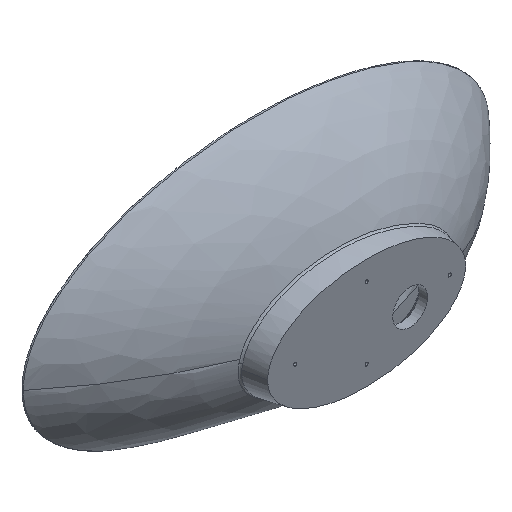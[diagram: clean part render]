
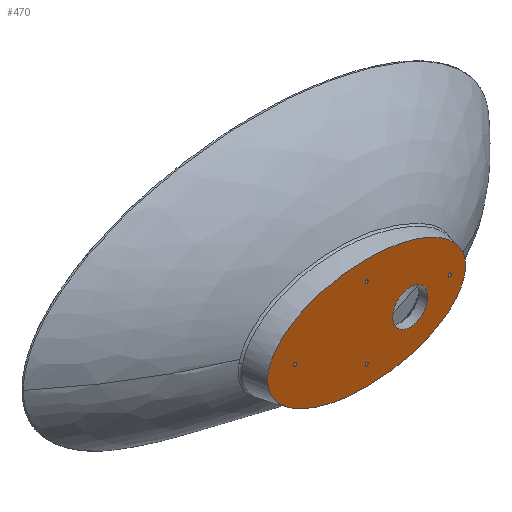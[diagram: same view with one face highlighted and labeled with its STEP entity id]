
A CAD part, isometric view. The second image highlights one B-rep face of the part: STEP entity #470.
In plain terms, the highlighted planar face has unit normal (0, -1, 0).
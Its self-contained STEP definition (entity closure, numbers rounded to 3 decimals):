
#16=FACE_BOUND('',#116,.T.);
#17=FACE_BOUND('',#117,.T.);
#18=FACE_BOUND('',#118,.T.);
#19=FACE_BOUND('',#119,.T.);
#20=FACE_BOUND('',#120,.T.);
#22=PLANE('',#530);
#35=CIRCLE('',#496,2.);
#38=CIRCLE('',#499,2.);
#39=CIRCLE('',#501,2.);
#42=CIRCLE('',#504,2.);
#43=CIRCLE('',#506,2.);
#46=CIRCLE('',#509,2.);
#47=CIRCLE('',#511,2.);
#50=CIRCLE('',#514,2.);
#51=CIRCLE('',#516,22.);
#55=CIRCLE('',#520,22.);
#88=FACE_OUTER_BOUND('',#115,.T.);
#115=EDGE_LOOP('',(#403,#404));
#116=EDGE_LOOP('',(#405,#406));
#117=EDGE_LOOP('',(#407,#408));
#118=EDGE_LOOP('',(#409,#410));
#119=EDGE_LOOP('',(#411,#412));
#120=EDGE_LOOP('',(#413,#414));
#146=B_SPLINE_CURVE_WITH_KNOTS('',3,(#741,#742,#743,#744,#745,#746,#747,
#748,#749,#750,#751,#752,#753,#754,#755,#756,#757,#758,#759,#760,#761,#762,
#763,#764,#765,#766),.UNSPECIFIED.,.F.,.F.,(4,2,2,2,2,2,2,2,2,2,2,2,4),
(0.,0.196,0.393,0.589,0.785,
1.178,1.571,1.963,2.356,2.553,
2.749,2.945,3.142),.UNSPECIFIED.);
#178=B_SPLINE_CURVE_WITH_KNOTS('',3,(#14855,#14856,#14857,#14858,#14859,
#14860,#14861,#14862,#14863,#14864,#14865,#14866,#14867,#14868,#14869,#14870,
#14871,#14872,#14873,#14874,#14875,#14876,#14877,#14878,#14879,#14880),
 .UNSPECIFIED.,.F.,.F.,(4,2,2,2,2,2,2,2,2,2,2,2,4),(3.142,3.338,
3.534,3.731,3.927,4.32,4.712,
5.105,5.498,5.694,5.89,6.087,
6.283),.UNSPECIFIED.);
#181=VERTEX_POINT('',#738);
#182=VERTEX_POINT('',#740);
#189=VERTEX_POINT('',#1996);
#190=VERTEX_POINT('',#1997);
#193=VERTEX_POINT('',#2006);
#194=VERTEX_POINT('',#2007);
#197=VERTEX_POINT('',#2016);
#198=VERTEX_POINT('',#2017);
#201=VERTEX_POINT('',#2026);
#202=VERTEX_POINT('',#2027);
#205=VERTEX_POINT('',#2036);
#206=VERTEX_POINT('',#2037);
#233=EDGE_CURVE('',#182,#181,#146,.T.);
#241=EDGE_CURVE('',#189,#190,#35,.T.);
#245=EDGE_CURVE('',#190,#189,#38,.T.);
#246=EDGE_CURVE('',#193,#194,#39,.T.);
#250=EDGE_CURVE('',#194,#193,#42,.T.);
#251=EDGE_CURVE('',#197,#198,#43,.T.);
#255=EDGE_CURVE('',#198,#197,#46,.T.);
#256=EDGE_CURVE('',#201,#202,#47,.T.);
#260=EDGE_CURVE('',#202,#201,#50,.T.);
#261=EDGE_CURVE('',#205,#206,#51,.T.);
#266=EDGE_CURVE('',#206,#205,#55,.T.);
#302=EDGE_CURVE('',#181,#182,#178,.T.);
#403=ORIENTED_EDGE('',*,*,#233,.T.);
#404=ORIENTED_EDGE('',*,*,#302,.T.);
#405=ORIENTED_EDGE('',*,*,#241,.F.);
#406=ORIENTED_EDGE('',*,*,#245,.F.);
#407=ORIENTED_EDGE('',*,*,#246,.F.);
#408=ORIENTED_EDGE('',*,*,#250,.F.);
#409=ORIENTED_EDGE('',*,*,#251,.F.);
#410=ORIENTED_EDGE('',*,*,#255,.F.);
#411=ORIENTED_EDGE('',*,*,#256,.F.);
#412=ORIENTED_EDGE('',*,*,#260,.F.);
#413=ORIENTED_EDGE('',*,*,#261,.F.);
#414=ORIENTED_EDGE('',*,*,#266,.F.);
#470=ADVANCED_FACE('',(#88,#16,#17,#18,#19,#20),#22,.T.);
#496=AXIS2_PLACEMENT_3D('',#1998,#545,#546);
#499=AXIS2_PLACEMENT_3D('',#2004,#552,#553);
#501=AXIS2_PLACEMENT_3D('',#2008,#556,#557);
#504=AXIS2_PLACEMENT_3D('',#2014,#563,#564);
#506=AXIS2_PLACEMENT_3D('',#2018,#567,#568);
#509=AXIS2_PLACEMENT_3D('',#2024,#574,#575);
#511=AXIS2_PLACEMENT_3D('',#2028,#578,#579);
#514=AXIS2_PLACEMENT_3D('',#2034,#585,#586);
#516=AXIS2_PLACEMENT_3D('',#2038,#589,#590);
#520=AXIS2_PLACEMENT_3D('',#2046,#598,#599);
#530=AXIS2_PLACEMENT_3D('',#14881,#619,#620);
#545=DIRECTION('center_axis',(0.,-1.,0.));
#546=DIRECTION('ref_axis',(0.,0.,1.));
#552=DIRECTION('center_axis',(0.,-1.,0.));
#553=DIRECTION('ref_axis',(0.,0.,1.));
#556=DIRECTION('center_axis',(0.,-1.,0.));
#557=DIRECTION('ref_axis',(0.,0.,1.));
#563=DIRECTION('center_axis',(0.,-1.,0.));
#564=DIRECTION('ref_axis',(0.,0.,1.));
#567=DIRECTION('center_axis',(0.,-1.,0.));
#568=DIRECTION('ref_axis',(0.,0.,1.));
#574=DIRECTION('center_axis',(0.,-1.,0.));
#575=DIRECTION('ref_axis',(0.,0.,1.));
#578=DIRECTION('center_axis',(0.,-1.,0.));
#579=DIRECTION('ref_axis',(0.,0.,1.));
#585=DIRECTION('center_axis',(0.,-1.,0.));
#586=DIRECTION('ref_axis',(0.,0.,1.));
#589=DIRECTION('center_axis',(0.,-1.,0.));
#590=DIRECTION('ref_axis',(0.,0.,1.));
#598=DIRECTION('center_axis',(0.,-1.,0.));
#599=DIRECTION('ref_axis',(0.,0.,1.));
#619=DIRECTION('center_axis',(0.,-1.,0.));
#620=DIRECTION('ref_axis',(0.,0.,-1.));
#738=CARTESIAN_POINT('',(-180.,-113.,10.));
#740=CARTESIAN_POINT('',(70.,-113.,10.));
#741=CARTESIAN_POINT('Ctrl Pts',(70.,-113.,10.));
#742=CARTESIAN_POINT('Ctrl Pts',(70.,-113.,14.581));
#743=CARTESIAN_POINT('Ctrl Pts',(69.194,-113.,19.163));
#744=CARTESIAN_POINT('Ctrl Pts',(66.002,-113.,28.15));
#745=CARTESIAN_POINT('Ctrl Pts',(63.616,-113.,32.555));
#746=CARTESIAN_POINT('Ctrl Pts',(57.354,-113.,41.021));
#747=CARTESIAN_POINT('Ctrl Pts',(53.479,-113.,45.081));
#748=CARTESIAN_POINT('Ctrl Pts',(44.388,-113.,52.699));
#749=CARTESIAN_POINT('Ctrl Pts',(39.173,-113.,56.258));
#750=CARTESIAN_POINT('Ctrl Pts',(21.818,-113.,65.977));
#751=CARTESIAN_POINT('Ctrl Pts',(7.952,-113.,71.165));
#752=CARTESIAN_POINT('Ctrl Pts',(-22.282,-113.,78.178));
#753=CARTESIAN_POINT('Ctrl Pts',(-38.638,-113.,80.));
#754=CARTESIAN_POINT('Ctrl Pts',(-71.362,-113.,80.));
#755=CARTESIAN_POINT('Ctrl Pts',(-87.718,-113.,78.178));
#756=CARTESIAN_POINT('Ctrl Pts',(-117.952,-113.,71.165));
#757=CARTESIAN_POINT('Ctrl Pts',(-131.818,-113.,65.977));
#758=CARTESIAN_POINT('Ctrl Pts',(-149.173,-113.,56.258));
#759=CARTESIAN_POINT('Ctrl Pts',(-154.388,-113.,52.699));
#760=CARTESIAN_POINT('Ctrl Pts',(-163.479,-113.,45.081));
#761=CARTESIAN_POINT('Ctrl Pts',(-167.354,-113.,41.021));
#762=CARTESIAN_POINT('Ctrl Pts',(-173.616,-113.,32.555));
#763=CARTESIAN_POINT('Ctrl Pts',(-176.002,-113.,28.15));
#764=CARTESIAN_POINT('Ctrl Pts',(-179.194,-113.,19.163));
#765=CARTESIAN_POINT('Ctrl Pts',(-180.,-113.,14.581));
#766=CARTESIAN_POINT('Ctrl Pts',(-180.,-113.,10.));
#1996=CARTESIAN_POINT('',(50.,-113.,8.));
#1997=CARTESIAN_POINT('',(50.,-113.,12.));
#1998=CARTESIAN_POINT('Origin',(50.,-113.,10.));
#2004=CARTESIAN_POINT('Origin',(50.,-113.,10.));
#2006=CARTESIAN_POINT('',(-145.,-113.,8.));
#2007=CARTESIAN_POINT('',(-145.,-113.,12.));
#2008=CARTESIAN_POINT('Origin',(-145.,-113.,10.));
#2014=CARTESIAN_POINT('Origin',(-145.,-113.,10.));
#2016=CARTESIAN_POINT('',(-55.,-113.,-37.));
#2017=CARTESIAN_POINT('',(-55.,-113.,-33.));
#2018=CARTESIAN_POINT('Origin',(-55.,-113.,-35.));
#2024=CARTESIAN_POINT('Origin',(-55.,-113.,-35.));
#2026=CARTESIAN_POINT('',(-55.,-113.,53.));
#2027=CARTESIAN_POINT('',(-55.,-113.,57.));
#2028=CARTESIAN_POINT('Origin',(-55.,-113.,55.));
#2034=CARTESIAN_POINT('Origin',(-55.,-113.,55.));
#2036=CARTESIAN_POINT('',(0.,-113.,-22.));
#2037=CARTESIAN_POINT('',(0.,-113.,22.));
#2038=CARTESIAN_POINT('Origin',(0.,-113.,0.));
#2046=CARTESIAN_POINT('Origin',(0.,-113.,0.));
#14855=CARTESIAN_POINT('Ctrl Pts',(-180.,-113.,10.));
#14856=CARTESIAN_POINT('Ctrl Pts',(-180.,-113.,5.419));
#14857=CARTESIAN_POINT('Ctrl Pts',(-179.194,-113.,0.837));
#14858=CARTESIAN_POINT('Ctrl Pts',(-176.002,-113.,-8.15));
#14859=CARTESIAN_POINT('Ctrl Pts',(-173.616,-113.,-12.555));
#14860=CARTESIAN_POINT('Ctrl Pts',(-167.354,-113.,-21.021));
#14861=CARTESIAN_POINT('Ctrl Pts',(-163.479,-113.,-25.081));
#14862=CARTESIAN_POINT('Ctrl Pts',(-154.388,-113.,-32.699));
#14863=CARTESIAN_POINT('Ctrl Pts',(-149.173,-113.,-36.258));
#14864=CARTESIAN_POINT('Ctrl Pts',(-131.818,-113.,-45.977));
#14865=CARTESIAN_POINT('Ctrl Pts',(-117.952,-113.,-51.165));
#14866=CARTESIAN_POINT('Ctrl Pts',(-87.718,-113.,-58.178));
#14867=CARTESIAN_POINT('Ctrl Pts',(-71.362,-113.,-60.));
#14868=CARTESIAN_POINT('Ctrl Pts',(-38.638,-113.,-60.));
#14869=CARTESIAN_POINT('Ctrl Pts',(-22.282,-113.,-58.178));
#14870=CARTESIAN_POINT('Ctrl Pts',(7.952,-113.,-51.165));
#14871=CARTESIAN_POINT('Ctrl Pts',(21.818,-113.,-45.977));
#14872=CARTESIAN_POINT('Ctrl Pts',(39.173,-113.,-36.258));
#14873=CARTESIAN_POINT('Ctrl Pts',(44.388,-113.,-32.699));
#14874=CARTESIAN_POINT('Ctrl Pts',(53.479,-113.,-25.081));
#14875=CARTESIAN_POINT('Ctrl Pts',(57.354,-113.,-21.021));
#14876=CARTESIAN_POINT('Ctrl Pts',(63.616,-113.,-12.555));
#14877=CARTESIAN_POINT('Ctrl Pts',(66.002,-113.,-8.15));
#14878=CARTESIAN_POINT('Ctrl Pts',(69.194,-113.,0.837));
#14879=CARTESIAN_POINT('Ctrl Pts',(70.,-113.,5.419));
#14880=CARTESIAN_POINT('Ctrl Pts',(70.,-113.,10.));
#14881=CARTESIAN_POINT('Origin',(-55.,-113.,10.));
